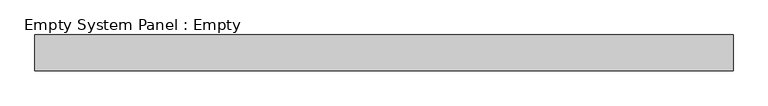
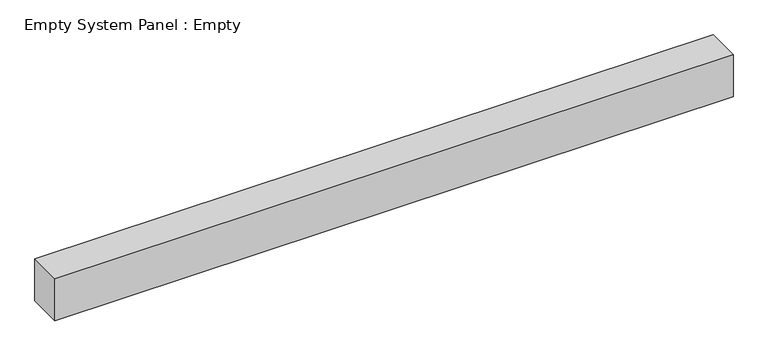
"""IFC4 building model written with IfcOpenShell, lengths in millimetres: plate geometry, Empty System Panel : Empty."""

from ifc_helpers import new_model, si_unit, origin, origin_with_axes, place, context, project, spatial, polyline, outline, extrude, source, transform, mapped, element, save


def empty_system_panel_empty_07f90b1f(model_context):
    return source(origin(), model_context, "Body", "SweptSolid", [
        extrude(outline(polyline([(975.0, -50.0), (-975.0, -50.0), (-975.0, 50.0), (975.0, 50.0), (975.0, -50.0)])), origin_with_axes(), (0.0, 0.0, 1.0), 127.5),
    ])


if __name__ == "__main__":
    model = new_model("IFC4")
    model_context = context("Model", 3, world=origin())
    ifc_project = project(units=[si_unit("LENGTHUNIT", "METRE", prefix="MILLI")], contexts=[model_context])
    site = spatial("IfcSite", under=ifc_project)
    building = spatial("IfcBuilding", under=site)
    placement = place(None, origin())
    empty_system_panel_empty_shape = empty_system_panel_empty_07f90b1f(model_context)
    element("IfcPlate", 1, ObjectType="Empty System Panel : Empty", at=placement, inside=building, context=model_context, shape_type="MappedRepresentation", body=[
        mapped(empty_system_panel_empty_shape, transform((0.0, 0.0, 0.0), x_axis=(1.0, 0.0, 0.0), y_axis=(0.0, 1.0, 0.0), z_axis=(0.0, 0.0, 1.0))),
    ])
    save(model, "model.ifc")
